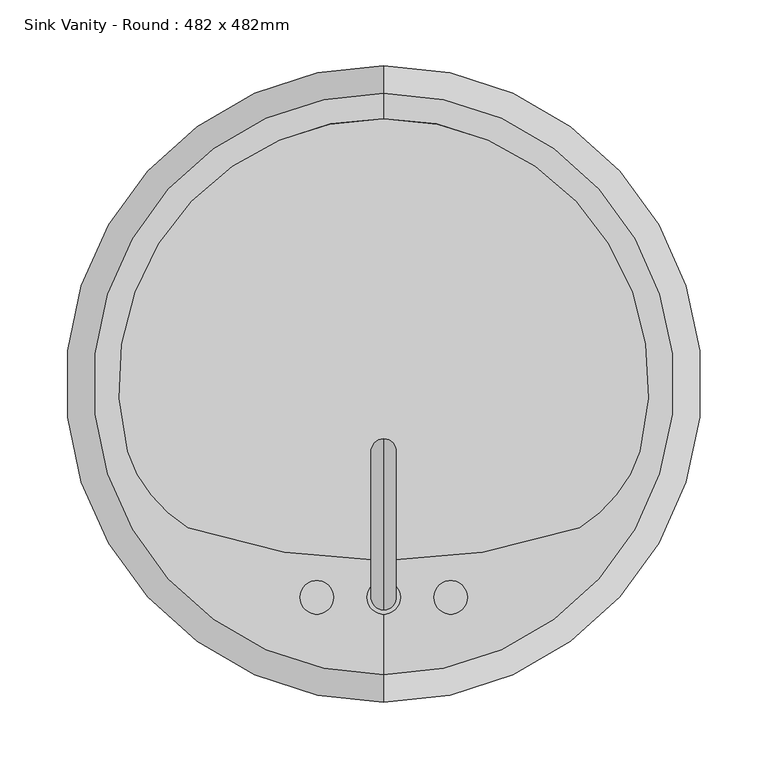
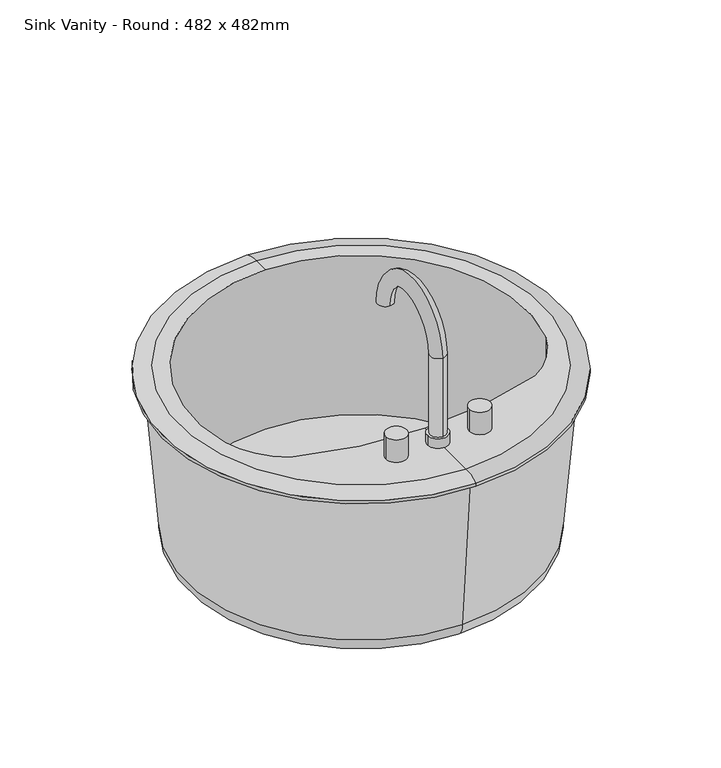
"""IFC4 building model written with IfcOpenShell, lengths in millimetres: flow terminal geometry, Sink Vanity - Round : 482 x 482mm."""

from ifc_helpers import new_model, si_unit, point, frame, frame_2d, origin, place, context, project, spatial, polyline, circle_curve, ellipse_curve, trimmed, segment, composite_curve, outline, extrude, source, transform, mapped, element, save
from ifc_brep_helpers import plane_surface, cylinder_surface, revolved_surface, advanced_brep


def sink_vanity_round_482_x_482mm_d6680c68(model_context):
    return source(origin(), model_context, "Body", "SolidModel", [
        advanced_brep(
        [(83.9517406, -247.0927185, 759.525), (109.3517406, -247.0927185, 759.525), (83.9517406, -247.0927185, 771.7602909), (109.3517406, -247.0927185, 771.7602909), (96.6517406, -237.5677185, 771.7602909), (96.6517406, -256.6177185, 771.7602909), (96.6517406, -237.5677185, 872.2375), (96.6517406, -256.6177185, 872.2375), (96.6517406, -145.7775038, 872.2375), (96.6517406, -126.7275038, 872.2375)],
        [
            (0, 1, circle_curve(frame((96.6517406, -247.0927185, 759.525), z_axis=(0.0, 0.0, -1.0), x_axis=(1.0, 0.0, 0.0)), 12.7)),
            (1, 0, circle_curve(frame((96.6517406, -247.0927185, 759.525), z_axis=(0.0, 0.0, -1.0), x_axis=(1.0, 0.0, 0.0)), 12.7)),
            (2, 3, circle_curve(frame((96.6517406, -247.0927185, 771.7602909), z_axis=(0.0, 0.0, 1.0), x_axis=(1.0, 0.0, 0.0)), 12.7)),
            (3, 2, circle_curve(frame((96.6517406, -247.0927185, 771.7602909), z_axis=(0.0, 0.0, 1.0), x_axis=(1.0, 0.0, 0.0)), 12.7)),
            (4, 5, circle_curve(frame((96.6517406, -247.0927185, 771.7602909), z_axis=(0.0, 0.0, -1.0), x_axis=(0.0, -1.0, 0.0)), 9.525)),
            (5, 4, circle_curve(frame((96.6517406, -247.0927185, 771.7602909), z_axis=(0.0, 0.0, -1.0), x_axis=(0.0, -1.0, 0.0)), 9.525)),
            (3, 1),
            (0, 2),
            (6, 4),
            (5, 7),
            (7, 6, circle_curve(frame((96.6517406, -247.0927185, 872.2375), z_axis=(0.0, 0.0, -1.0), x_axis=(0.0, -1.0, 0.0)), 9.525)),
            (6, 7, circle_curve(frame((96.6517406, -247.0927185, 872.2375), z_axis=(0.0, 0.0, -1.0), x_axis=(0.0, -1.0, 0.0)), 9.525)),
            (8, 9, circle_curve(frame((96.6517406, -136.2525038, 872.2375), z_axis=(0.0, 0.0, -1.0), x_axis=(0.0, 1.0, 0.0)), 9.525)),
            (9, 8, circle_curve(frame((96.6517406, -136.2525038, 872.2375), z_axis=(0.0, 0.0, -1.0), x_axis=(0.0, 1.0, 0.0)), 9.525)),
            (7, 9, circle_curve(frame((96.6517406, -191.6726112, 872.2375), z_axis=(-1.0, 0.0, 0.0), x_axis=(0.0, -1.0, 0.0)), 64.9451073)),
            (8, 6, circle_curve(frame((96.6517406, -191.6726112, 872.2375), z_axis=(1.0, 0.0, 0.0), x_axis=(0.0, -1.0, 0.0)), 45.8951073)),
        ],
        [
            plane_surface(frame((109.3517406, -247.0927185, 759.525), z_axis=(0.0, 0.0, -1.0), x_axis=(0.0, 1.0, 0.0))),
            plane_surface(frame((109.3517406, -247.0927185, 771.7602909), z_axis=(0.0, 0.0, 1.0), x_axis=(0.0, -1.0, 0.0))),
            cylinder_surface(frame((96.6517406, -247.0927185, 759.525), z_axis=(0.0, 0.0, 1.0), x_axis=(1.0, 0.0, 0.0)), 12.7),
            cylinder_surface(frame((96.6517406, -247.0927185, 759.525), z_axis=(0.0, 0.0, -1.0), x_axis=(0.0, -1.0, 0.0)), 9.525),
            plane_surface(frame((96.6517406, -191.6726112, 872.2375), z_axis=(0.0, 0.0, -1.0), x_axis=(0.0, 1.0, 0.0))),
            revolved_surface(trimmed(ellipse_curve(frame((96.6517406, -247.0927185, 872.2375), z_axis=(0.0, 0.0, 1.0), x_axis=(0.0, -1.0, 0.0)), 9.525, 9.525), [point((96.6517406, -237.5677185, 872.2375))], [point((96.6517406, -256.6177185, 872.2375))], True, "CARTESIAN"), (96.6517406, -191.6726112, 872.2375), (1.0, 0.0, 0.0)),
            revolved_surface(trimmed(ellipse_curve(frame((96.6517406, -247.0927185, 872.2375), z_axis=(0.0, 0.0, 1.0), x_axis=(0.0, -1.0, 0.0)), 9.525, 9.525), [point((96.6517406, -256.6177185, 872.2375))], [point((96.6517406, -237.5677185, 872.2375))], True, "CARTESIAN"), (96.6517406, -191.6726112, 872.2375), (1.0, 0.0, 0.0)),
        ],
        [
            (0, [[1, 2]]),
            (1, [[3, 4], [5, 6]]),
            (2, [[7, -1, 8, -4]]),
            (2, [[-8, -2, -7, -3]]),
            (3, [[9, -6, 10, 11]]),
            (3, [[-10, -5, -9, 12]]),
            (4, [[13, 14]]),
            (5, [[15, -13, 16, -11]]),
            (6, [[-16, -14, -15, -12]]),
        ],
    ),
        extrude(outline(composite_curve([segment(trimmed(circle_curve(frame_2d((45.8517406, -247.0927185)), 12.7), [point((33.1517406, -247.0927185))], [point((58.5517406, -247.0927185))], False, "CARTESIAN"), True, "CONTINUOUS"), segment(trimmed(circle_curve(frame_2d((45.8517406, -247.0927185)), 12.7), [point((58.5517406, -247.0927185))], [point((33.1517406, -247.0927185))], False, "CARTESIAN"), True, "CONTINUOUS")], self_intersect=False)), frame((0.0, 0.0, 759.525), z_axis=(0.0, 0.0, 1.0), x_axis=(1.0, 0.0, 0.0)), (0.0, 0.0, 1.0), 28.575),
        extrude(outline(composite_curve([segment(trimmed(circle_curve(frame_2d((147.4517406, -247.0927185)), 12.7), [point((134.7517406, -247.0927185))], [point((160.1517406, -247.0927185))], False, "CARTESIAN"), True, "CONTINUOUS"), segment(trimmed(circle_curve(frame_2d((147.4517406, -247.0927185)), 12.7), [point((160.1517406, -247.0927185))], [point((134.7517406, -247.0927185))], False, "CARTESIAN"), True, "CONTINUOUS")], self_intersect=False)), frame((0.0, 0.0, 759.525), z_axis=(0.0, 0.0, 1.0), x_axis=(1.0, 0.0, 0.0)), (0.0, 0.0, 1.0), 28.575),
        advanced_brep(
        [(96.6517406, 135.3870093, 759.525), (96.6517406, 156.1322815, 753.96875), (96.6517406, -326.4677185, 753.96875), (96.6517406, -305.7224463, 759.525), (96.6517406, -219.2662048, 759.525), (-52.1534933, -194.0861398, 759.525), (-98.1703414, -136.2525038, 759.525), (96.6517406, 116.2405705, 759.525), (291.4738225, -136.2525038, 759.525), (245.4569744, -194.0861398, 759.525), (96.6517406, 107.1264028, 534.1), (96.6517406, -85.1677185, 534.1), (96.6517406, -277.4618398, 534.1), (96.6517406, -298.0181731, 555.2842611), (96.6517406, 127.6827361, 555.2842611), (96.6517406, -314.5614685, 750.0), (96.6517406, 144.2260315, 750.0), (96.6517406, -326.4677185, 750.0), (96.6517406, 156.1322815, 750.0), (245.4569744, -194.0861398, 555.2842611), (291.4738225, -136.2525038, 555.2842611), (-98.1703414, -136.2525038, 555.2842611), (-52.1534933, -194.0861398, 555.2842611)],
        [
            (0, 1, circle_curve(frame((96.6517406, 139.1020246, 731.889434), z_axis=(-1.0, 0.0, 0.0), x_axis=(0.0, 1.0, 0.0)), 27.8841505)),
            (1, 2, circle_curve(frame((96.6517406, -85.1677185, 753.96875), z_axis=(0.0, 0.0, 1.0), x_axis=(0.0, -1.0, 0.0)), 241.3)),
            (2, 3, circle_curve(frame((96.6517406, -309.4374616, 731.889434), z_axis=(-1.0, 0.0, 0.0), x_axis=(0.0, -1.0, 0.0)), 27.8841505)),
            (3, 0, circle_curve(frame((96.6517406, -85.1677185, 759.525), z_axis=(0.0, 0.0, -1.0), x_axis=(0.0, -1.0, 0.0)), 220.5547278)),
            (2, 1, circle_curve(frame((96.6517406, -85.1677185, 753.96875), z_axis=(0.0, 0.0, 1.0), x_axis=(0.0, -1.0, 0.0)), 241.3)),
            (0, 3, circle_curve(frame((96.6517406, -85.1677185, 759.525), z_axis=(0.0, 0.0, -1.0), x_axis=(0.0, -1.0, 0.0)), 220.5547278)),
            (3, 4),
            (4, 5, circle_curve(frame((96.6517406, 233.0168462, 759.525), z_axis=(0.0, 0.0, -1.0), x_axis=(1.0, 0.0, 0.0)), 452.283051)),
            (5, 6, circle_curve(frame((1.3689689, -104.2755165, 759.525), z_axis=(0.0, 0.0, -1.0), x_axis=(1.0, 0.0, 0.0)), 104.5495194)),
            (6, 7, circle_curve(frame((96.6517406, -85.1677185, 759.525), z_axis=(0.0, 0.0, -1.0), x_axis=(1.0, 0.0, 0.0)), 201.408289)),
            (7, 0),
            (7, 8, circle_curve(frame((96.6517406, -85.1677185, 759.525), z_axis=(0.0, 0.0, -1.0), x_axis=(1.0, 0.0, 0.0)), 201.408289)),
            (8, 9, circle_curve(frame((191.9345122, -104.2755165, 759.525), z_axis=(0.0, 0.0, -1.0), x_axis=(1.0, 0.0, 0.0)), 104.5495194)),
            (9, 4, circle_curve(frame((96.6517406, 233.0168462, 759.525), z_axis=(0.0, 0.0, -1.0), x_axis=(1.0, 0.0, 0.0)), 452.283051)),
            (10, 11),
            (11, 12),
            (12, 10, circle_curve(frame((96.6517406, -85.1677185, 534.1), z_axis=(0.0, 0.0, -1.0), x_axis=(0.0, -1.0, 0.0)), 192.2941213)),
            (10, 12, circle_curve(frame((96.6517406, -85.1677185, 534.1), z_axis=(0.0, 0.0, -1.0), x_axis=(0.0, -1.0, 0.0)), 192.2941213)),
            (12, 13, circle_curve(frame((96.6517406, -277.4618398, 554.6656396), z_axis=(-1.0, 0.0, 0.0), x_axis=(0.0, -1.0, 0.0)), 20.5656396)),
            (13, 14, circle_curve(frame((96.6517406, -85.1677185, 555.2842611), z_axis=(0.0, 0.0, -1.0), x_axis=(0.0, -1.0, 0.0)), 212.8504546)),
            (14, 10, circle_curve(frame((96.6517406, 107.1264028, 554.6656396), z_axis=(-1.0, 0.0, 0.0), x_axis=(0.0, 1.0, 0.0)), 20.5656396)),
            (14, 13, circle_curve(frame((96.6517406, -85.1677185, 555.2842611), z_axis=(0.0, 0.0, -1.0), x_axis=(0.0, -1.0, 0.0)), 212.8504546)),
            (13, 15),
            (15, 16, circle_curve(frame((96.6517406, -85.1677185, 750.0), z_axis=(0.0, 0.0, -1.0), x_axis=(0.0, -1.0, 0.0)), 229.39375)),
            (16, 14),
            (16, 15, circle_curve(frame((96.6517406, -85.1677185, 750.0), z_axis=(0.0, 0.0, -1.0), x_axis=(0.0, -1.0, 0.0)), 229.39375)),
            (15, 17),
            (17, 18, circle_curve(frame((96.6517406, -85.1677185, 750.0), z_axis=(0.0, 0.0, -1.0), x_axis=(0.0, -1.0, 0.0)), 241.3)),
            (18, 16),
            (18, 17, circle_curve(frame((96.6517406, -85.1677185, 750.0), z_axis=(0.0, 0.0, -1.0), x_axis=(0.0, -1.0, 0.0)), 241.3)),
            (1, 18),
            (17, 2),
            (19, 20, circle_curve(frame((191.9345122, -104.2755165, 555.2842611), z_axis=(0.0, 0.0, 1.0), x_axis=(1.0, 0.0, 0.0)), 104.5495194)),
            (20, 21, circle_curve(frame((96.6517406, -85.1677185, 555.2842611), z_axis=(0.0, 0.0, 1.0), x_axis=(1.0, 0.0, 0.0)), 201.408289)),
            (21, 22, circle_curve(frame((1.3689689, -104.2755165, 555.2842611), z_axis=(0.0, 0.0, 1.0), x_axis=(1.0, 0.0, 0.0)), 104.5495194)),
            (22, 19, circle_curve(frame((96.6517406, 233.0168462, 555.2842611), z_axis=(0.0, 0.0, 1.0), x_axis=(1.0, 0.0, 0.0)), 452.283051)),
            (22, 5),
            (9, 19),
            (21, 6),
            (20, 8),
        ],
        [
            revolved_surface(trimmed(ellipse_curve(frame((96.6517406, -309.4374616, 731.889434), z_axis=(-1.0, 0.0, 0.0), x_axis=(0.0, -1.0, 0.0)), 27.8841505, 27.8841505), [point((96.6517406, -326.4677185, 753.96875))], [point((96.6517406, -305.7224463, 759.525))], True, "CARTESIAN"), (96.6517406, -85.1677185, 759.525), (0.0, 0.0, 1.0)),
            plane_surface(frame((96.6517406, -85.1677185, 759.525), z_axis=(0.0, 0.0, 1.0), x_axis=(0.0, -1.0, 0.0))),
            plane_surface(frame((96.6517406, -85.1677185, 534.1), z_axis=(0.0, 0.0, -1.0), x_axis=(0.0, -1.0, 0.0))),
            revolved_surface(trimmed(ellipse_curve(frame((96.6517406, -277.4618398, 554.6656396), z_axis=(-1.0, 0.0, 0.0), x_axis=(0.0, -1.0, 0.0)), 20.5656396, 20.5656396), [point((96.6517406, -277.4618398, 534.1))], [point((96.6517406, -298.0181731, 555.2842611))], True, "CARTESIAN"), (96.6517406, -85.1677185, 759.525), (0.0, 0.0, 1.0)),
            revolved_surface(polyline([(96.6517406, -298.0181731, 555.2842611), (96.6517406, -314.5614685, 750.0)]), (96.6517406, -85.1677185, 759.525), (0.0, 0.0, 1.0)),
            plane_surface(frame((96.6517406, -85.1677185, 750.0), z_axis=(0.0, 0.0, -1.0), x_axis=(0.0, -1.0, 0.0))),
            cylinder_surface(frame((96.6517406, -85.1677185, 759.525), z_axis=(0.0, 0.0, 1.0), x_axis=(0.0, -1.0, 0.0)), 241.3),
            plane_surface(frame((548.9347916, 233.0168462, 555.2842611), z_axis=(0.0, 0.0, 1.0), x_axis=(0.0, 1.0, 0.0))),
            revolved_surface(polyline([(548.9347916, 233.0168462, 759.525), (548.9347916, 233.0168462, 555.2842611)]), (96.6517406, 233.0168462, 555.2842611), (0.0, 0.0, 1.0)),
            revolved_surface(polyline([(105.91848829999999, -104.2755165, 759.525), (105.91848829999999, -104.2755165, 555.2842611)]), (1.3689689, -104.2755165, 555.2842611), (0.0, 0.0, 1.0)),
            revolved_surface(polyline([(298.0600296, -85.1677185, 759.525), (298.0600296, -85.1677185, 555.2842611)]), (96.6517406, -85.1677185, 555.2842611), (0.0, 0.0, 1.0)),
            revolved_surface(polyline([(296.4840316, -104.2755165, 759.525), (296.4840316, -104.2755165, 555.2842611)]), (191.9345122, -104.2755165, 555.2842611), (0.0, 0.0, 1.0)),
        ],
        [
            (0, [[1, 2, 3, 4]]),
            (0, [[5, -1, 6, -3]]),
            (1, [[7, 8, 9, 10, 11, -4]]),
            (1, [[-11, 12, 13, 14, -7, -6]]),
            (2, [[15, 16, 17]]),
            (2, [[-15, 18, -16]]),
            (3, [[19, 20, 21, -17]]),
            (3, [[-21, 22, -19, -18]]),
            (4, [[23, 24, 25, -20]]),
            (4, [[-25, 26, -23, -22]]),
            (5, [[27, 28, 29, -24]]),
            (5, [[-29, 30, -27, -26]]),
            (6, [[31, -28, 32, -2]]),
            (6, [[-32, -30, -31, -5]]),
            (7, [[33, 34, 35, 36]]),
            (8, [[37, -8, -14, 38, -36]]),
            (9, [[39, -9, -37, -35]]),
            (10, [[40, -12, -10, -39, -34]]),
            (11, [[-38, -13, -40, -33]]),
        ],
    ),
    ])


if __name__ == "__main__":
    model = new_model("IFC4")
    model_context = context("Model", 3, world=origin())
    ifc_project = project(units=[si_unit("LENGTHUNIT", "METRE", prefix="MILLI")], contexts=[model_context])
    site = spatial("IfcSite", under=ifc_project)
    building = spatial("IfcBuilding", under=site)
    placement = place(None, origin())
    sink_vanity_round_482_x_482mm_shape = sink_vanity_round_482_x_482mm_d6680c68(model_context)
    element("IfcFlowTerminal", 1, ObjectType="Sink Vanity - Round : 482 x 482mm", at=placement, inside=building, context=model_context, shape_type="MappedRepresentation", body=[
        mapped(sink_vanity_round_482_x_482mm_shape, transform((0.0, 0.0, 0.0), x_axis=(1.0, 0.0, 0.0), y_axis=(0.0, 1.0, 0.0), z_axis=(0.0, 0.0, 1.0))),
    ])
    save(model, "model.ifc")
